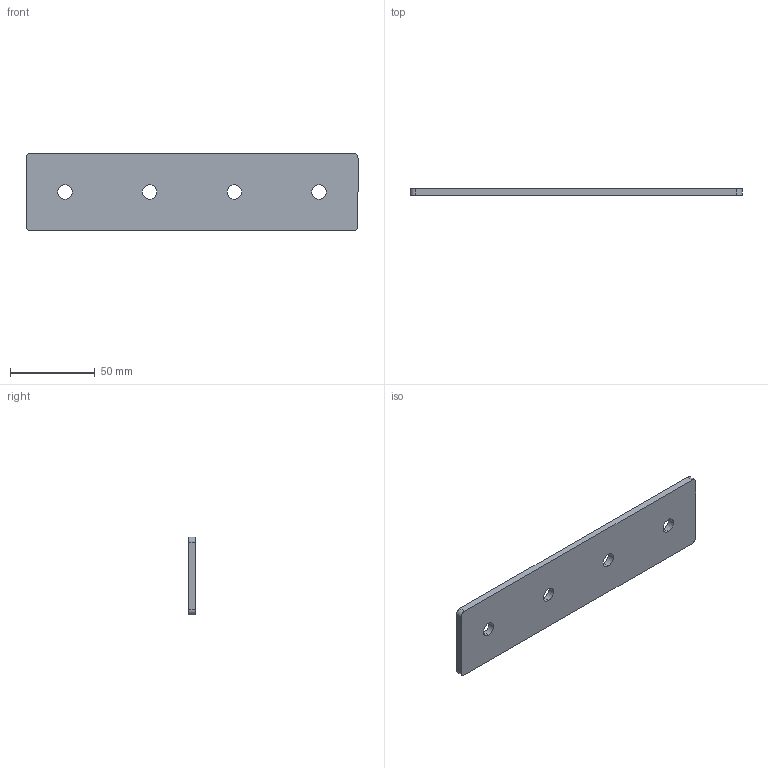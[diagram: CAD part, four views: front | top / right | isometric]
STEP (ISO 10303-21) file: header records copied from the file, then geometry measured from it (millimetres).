
FILE_DESCRIPTION (( 'STEP AP203' ), '1' );
FILE_NAME ('Ï-4-50.STEP', '2017-03-22T07:02:45', ( 'RosInstal-MKM' ), ( '' ), 'SwSTEP 2.0', 'SolidWorks 2014', '' );
FILE_SCHEMA (( 'CONFIG_CONTROL_DESIGN' ));
Length unit declared in the file: millimetre
Products named in the file (1): ﾏ-4-50
Bounding box: 196 x 4 x 46 mm (x, y, z)
Volume: 35125.6 mm3; surface area: 19905.6 mm2
Topology: 1 solids, 1 shells, 18 faces, 48 edges, 32 vertices
Faces by surface type: cylinder 12, plane 6
Entity records: 669 total; most frequent: DIRECTION 110, CARTESIAN_POINT 99, ORIENTED_EDGE 96, EDGE_CURVE 48, AXIS2_PLACEMENT_3D 43, VERTEX_POINT 32, EDGE_LOOP 26, LINE 24
